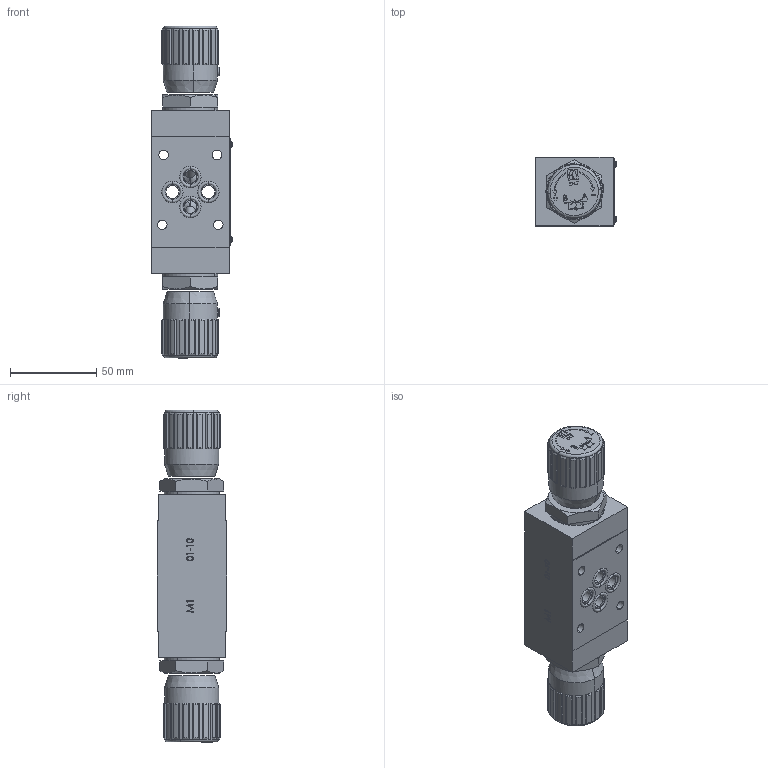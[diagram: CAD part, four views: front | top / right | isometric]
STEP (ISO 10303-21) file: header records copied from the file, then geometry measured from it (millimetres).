
FILE_DESCRIPTION (( 'STEP AP214' ), '1' );
FILE_NAME ('357-5-AB-03-H.STEP', '2015-05-18T07:58:31', ( '' ), ( '' ), 'SwSTEP 2.0', 'SolidWorks 2014', '' );
FILE_SCHEMA (( 'AUTOMOTIVE_DESIGN' ));
Length unit declared in the file: millimetre
Products named in the file (1): 357-5-AB-03-H
Bounding box: 46.96 x 40.38 x 192.6 mm (x, y, z)
Surface area: 40619.7 mm2 (no closed solid volume)
Topology: 0 solids, 65 shells, 952 faces, 4752 edges, 3755 vertices
Faces by surface type: plane 570, cylinder 156, cone 108, bspline 90, torus 28
Entity records: 71089 total; most frequent: CARTESIAN_POINT 25570, ORIENTED_EDGE 6576, DIRECTION 6183, EDGE_CURVE 4748, VERTEX_POINT 3755, LINE 3153, VECTOR 3153, AXIS2_PLACEMENT_3D 1515
